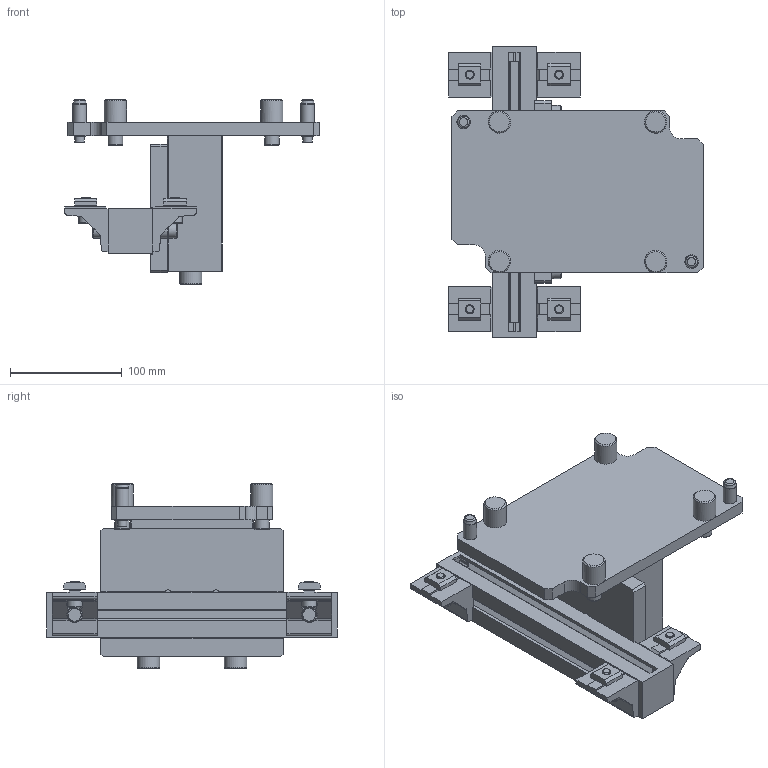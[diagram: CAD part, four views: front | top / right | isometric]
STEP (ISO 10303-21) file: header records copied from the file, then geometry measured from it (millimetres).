
FILE_DESCRIPTION(/* description */ (''),/* implementation_level */ '2;1');
FILE_NAME(/* name */ 'C:\Marketing\01_Versamove-SPU_STEP-Dateien-Homepage\VersamoveStandard\B240\STEP-Dateien\Positioniereinheit_PE-2045_B240.stp',/* time_stamp */ '2016-12-15T10:59:23+01:00',/* author */ ('herbert.engels'),/* organization */ (''),/* preprocessor_version */ 'ST-DEVELOPER v15.6',/* originating_system */ 'Autodesk Inventor 2015',/* authorisation */ '');
FILE_SCHEMA (('CONFIG_CONTROL_DESIGN'));
Length unit declared in the file: millimetre
Products named in the file (1): Positioniereinheit_PE-2045_B240
Bounding box: 227.8 x 260 x 165.5 mm (x, y, z)
Volume: 1677343 mm3; surface area: 256262.4 mm2
Topology: 1 solids, 1 shells, 632 faces, 1856 edges, 1212 vertices
Faces by surface type: plane 454, cylinder 130, cone 28, torus 20
Full cylindrical faces by diameter (mm): 4.917 x2, 8 x22, 8.5 x2, 10 x2, 12 x4, 13 x14, 14 x8, 20 x6
Entity records: 20904 total; most frequent: CARTESIAN_POINT 3645, ORIENTED_EDGE 3428, DIRECTION 3290, EDGE_CURVE 1714, LINE 1356, VECTOR 1356, VERTEX_POINT 1170, AXIS2_PLACEMENT_3D 967
